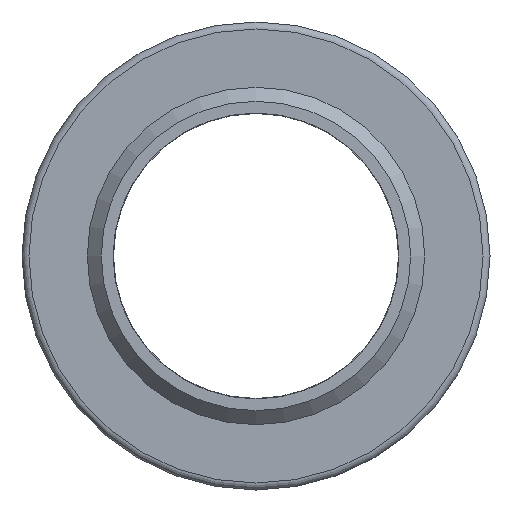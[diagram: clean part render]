
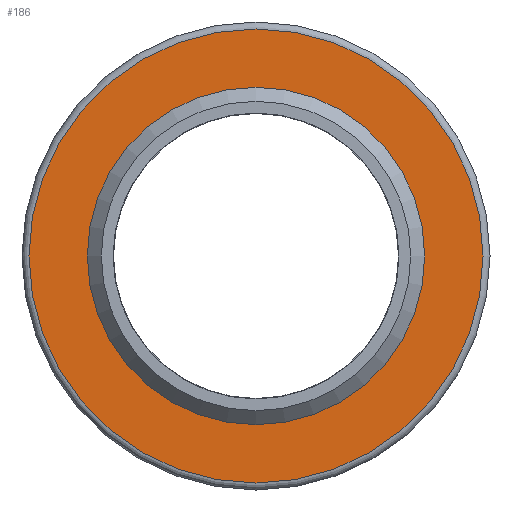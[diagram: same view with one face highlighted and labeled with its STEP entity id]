
A CAD part, front view. The second image highlights one B-rep face of the part: STEP entity #186.
In plain terms, the highlighted planar face has unit normal (0, -1, 0).
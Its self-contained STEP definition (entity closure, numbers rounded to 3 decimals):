
#34=PLANE('',#236);
#55=ORIENTED_EDGE('',*,*,#81,.T.);
#56=ORIENTED_EDGE('',*,*,#80,.F.);
#80=EDGE_CURVE('',#95,#95,#110,.T.);
#81=EDGE_CURVE('',#96,#96,#111,.T.);
#95=VERTEX_POINT('',#342);
#96=VERTEX_POINT('',#345);
#110=CIRCLE('',#235,24.15);
#111=CIRCLE('',#237,32.5);
#130=EDGE_LOOP('',(#55));
#131=EDGE_LOOP('',(#56));
#160=FACE_BOUND('',#130,.T.);
#161=FACE_BOUND('',#131,.T.);
#186=ADVANCED_FACE('',(#160,#161),#34,.T.);
#235=AXIS2_PLACEMENT_3D('',#341,#282,#283);
#236=AXIS2_PLACEMENT_3D('',#343,#284,#285);
#237=AXIS2_PLACEMENT_3D('',#344,#286,#287);
#282=DIRECTION('',(0.,-1.,0.));
#283=DIRECTION('',(0.,0.,-1.));
#284=DIRECTION('',(0.,-1.,0.));
#285=DIRECTION('',(0.,0.,-1.));
#286=DIRECTION('',(0.,-1.,0.));
#287=DIRECTION('',(0.,0.,-1.));
#341=CARTESIAN_POINT('',(0.,0.,0.));
#342=CARTESIAN_POINT('',(0.,0.,-24.15));
#343=CARTESIAN_POINT('',(0.,0.,24.15));
#344=CARTESIAN_POINT('',(0.,0.,0.));
#345=CARTESIAN_POINT('',(0.,0.,-32.5));
